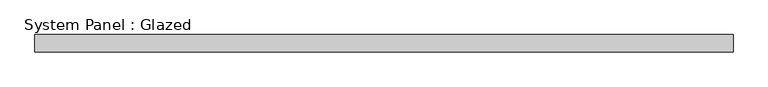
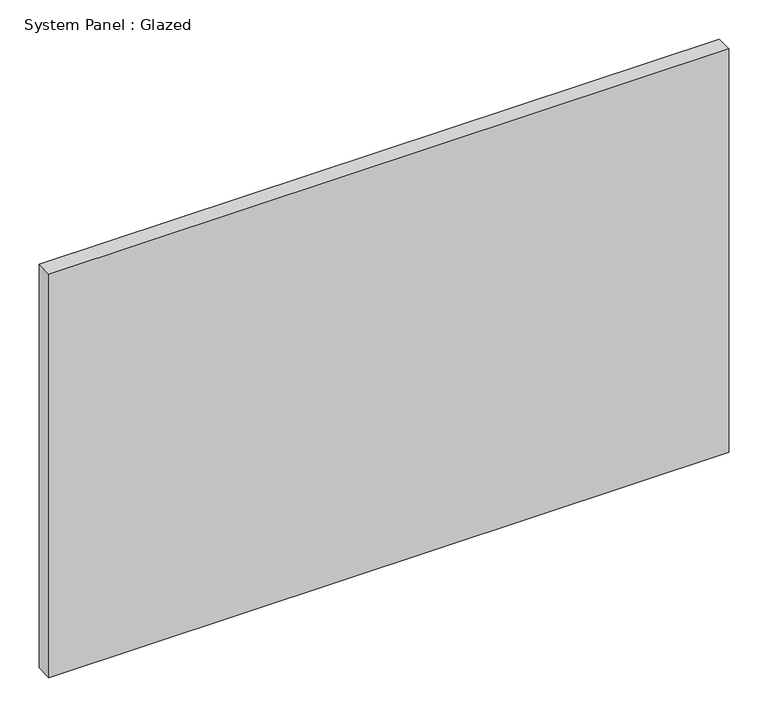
"""IFC4 building model written with IfcOpenShell, lengths in millimetres: plate geometry, System Panel : Glazed."""

from ifc_helpers import new_model, si_unit, origin, origin_with_axes, place, context, project, spatial, polyline, outline, extrude, source, transform, mapped, element, save


def system_panel_glazed_938eb26e(model_context):
    return source(origin(), model_context, "Body", "SweptSolid", [
        extrude(outline(polyline([(501.3420756, 24.5), (-501.3420756, 24.5), (-501.3420756, 49.5), (501.3420756, 49.5), (501.3420756, 24.5)])), origin_with_axes(), (0.0, 0.0, 1.0), 629.2467495),
    ])


if __name__ == "__main__":
    model = new_model("IFC4")
    model_context = context("Model", 3, world=origin())
    ifc_project = project(units=[si_unit("LENGTHUNIT", "METRE", prefix="MILLI")], contexts=[model_context])
    site = spatial("IfcSite", under=ifc_project)
    building = spatial("IfcBuilding", under=site)
    placement = place(None, origin())
    system_panel_glazed_shape = system_panel_glazed_938eb26e(model_context)
    element("IfcPlate", 1, ObjectType="System Panel : Glazed", at=placement, inside=building, context=model_context, shape_type="MappedRepresentation", body=[
        mapped(system_panel_glazed_shape, transform((0.0, 0.0, 0.0), x_axis=(1.0, 0.0, 0.0), y_axis=(0.0, 1.0, 0.0), z_axis=(0.0, 0.0, 1.0))),
    ])
    save(model, "model.ifc")
